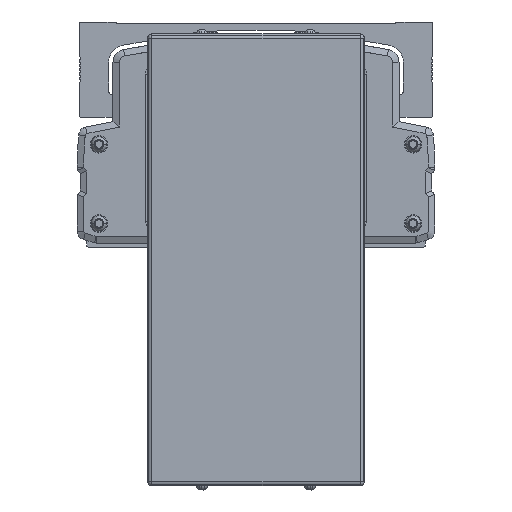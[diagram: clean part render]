
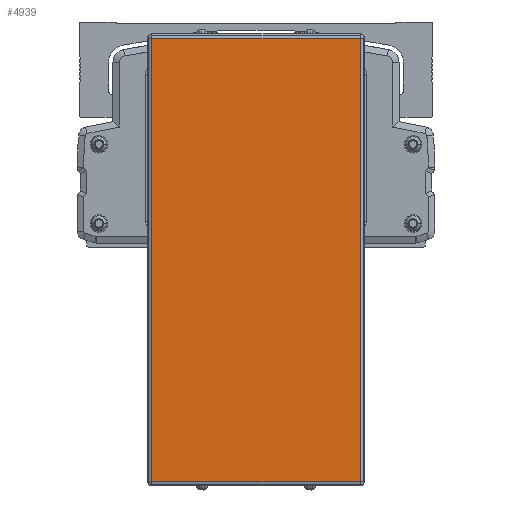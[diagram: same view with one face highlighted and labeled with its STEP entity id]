
A CAD part, front view. The second image highlights one B-rep face of the part: STEP entity #4939.
In plain terms, the highlighted planar face has unit normal (0, -1, 0).
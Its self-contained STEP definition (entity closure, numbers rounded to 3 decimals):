
#4939=ADVANCED_FACE('',(#10718),#10719,.T.);
#10718=FACE_OUTER_BOUND('',#19008,.T.);
#10719=PLANE('',#19009);
#19008=EDGE_LOOP('',(#33459,#33460,#33461,#33462));
#19009=AXIS2_PLACEMENT_3D('',#33463,#33464,#33465);
#33459=ORIENTED_EDGE('',*,*,#47403,.F.);
#33460=ORIENTED_EDGE('',*,*,#47747,.F.);
#33461=ORIENTED_EDGE('',*,*,#47748,.F.);
#33462=ORIENTED_EDGE('',*,*,#44389,.F.);
#33463=CARTESIAN_POINT('',(-600.,27.222,-57.8));
#33464=DIRECTION('',(0.,-1.0,0.));
#33465=DIRECTION('',(0.,0.,-1.0));
#44389=EDGE_CURVE('',#53782,#53784,#53785,.T.);
#47403=EDGE_CURVE('',#58311,#53782,#58313,.T.);
#47747=EDGE_CURVE('',#58727,#58311,#58770,.T.);
#47748=EDGE_CURVE('',#53784,#58727,#58771,.T.);
#53782=VERTEX_POINT('',#67199);
#53784=VERTEX_POINT('',#67201);
#53785=LINE('',#67202,#67203);
#58311=VERTEX_POINT('',#73875);
#58313=LINE('',#73877,#73878);
#58727=VERTEX_POINT('',#74516);
#58770=LINE('',#74577,#74578);
#58771=LINE('',#74579,#74580);
#67199=CARTESIAN_POINT('',(-552.,27.222,44.5));
#67201=CARTESIAN_POINT('',(-552.,27.222,-160.1));
#67202=CARTESIAN_POINT('',(-552.,27.222,-57.8));
#67203=VECTOR('',#80802,10.0);
#73875=CARTESIAN_POINT('',(-648.,27.222,44.5));
#73877=CARTESIAN_POINT('',(-600.,27.222,44.5));
#73878=VECTOR('',#84531,10.0);
#74516=CARTESIAN_POINT('',(-648.,27.222,-160.1));
#74577=CARTESIAN_POINT('',(-648.,27.222,-57.8));
#74578=VECTOR('',#84935,10.0);
#74579=CARTESIAN_POINT('',(-600.,27.222,-160.1));
#74580=VECTOR('',#84936,10.0);
#80802=DIRECTION('',(0.,0.,-1.0));
#84531=DIRECTION('',(1.0,0.,0.));
#84935=DIRECTION('',(0.,0.,1.0));
#84936=DIRECTION('',(-1.0,0.,0.));
